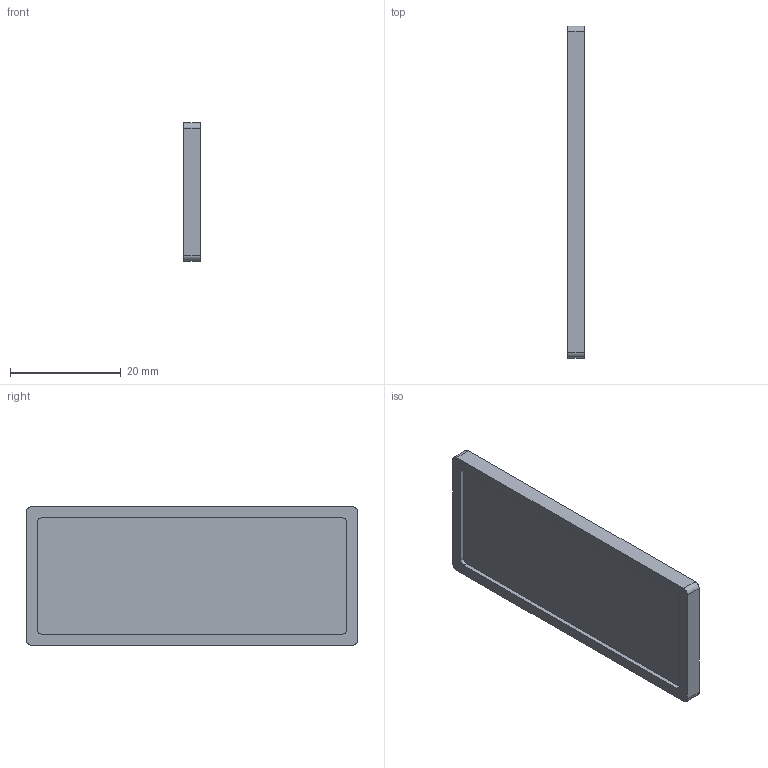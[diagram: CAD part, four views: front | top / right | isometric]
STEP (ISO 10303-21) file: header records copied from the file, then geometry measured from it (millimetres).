
FILE_DESCRIPTION(('Open CASCADE Model'),'2;1');
FILE_NAME('Open CASCADE Shape Model','2026-10-28T00:38:07',('Author'),( 'Open CASCADE'),'Open CASCADE STEP processor 7.8','Open CASCADE 7.8' ,'Unknown');
FILE_SCHEMA(('AUTOMOTIVE_DESIGN { 1 0 10303 214 1 1 1 1 }'));
Length unit declared in the file: millimetre
Products named in the file (1): Open CASCADE STEP translator 7.8 17
Bounding box: 3 x 60 x 25 mm (x, y, z)
Volume: 3557 mm3; surface area: 3625.3 mm2
Topology: 1 solids, 1 shells, 19 faces, 48 edges, 32 vertices
Faces by surface type: plane 11, cylinder 8
Entity records: 1213 total; most frequent: CARTESIAN_POINT 222, DIRECTION 189, LINE 104, VECTOR 104, ORIENTED_EDGE 96, PCURVE 96, DEFINITIONAL_REPRESENTATION 96, EDGE_CURVE 48
